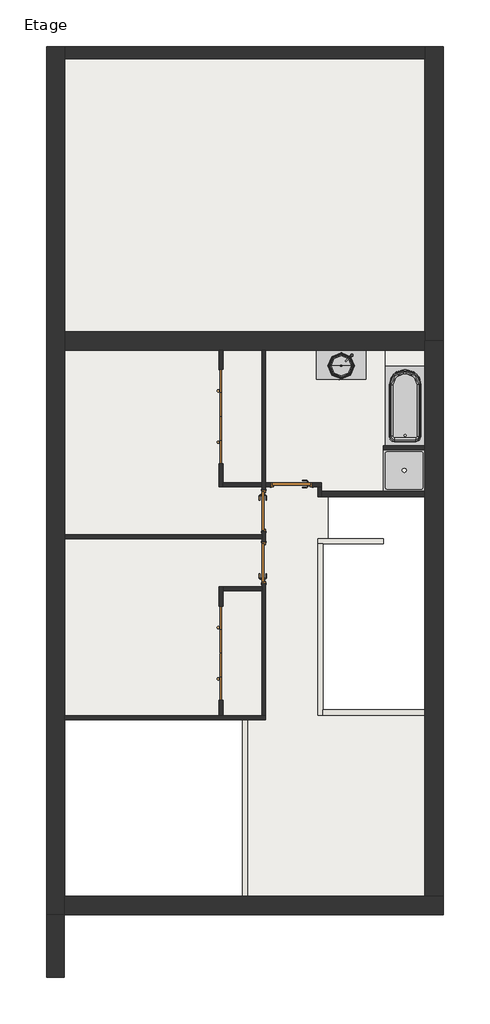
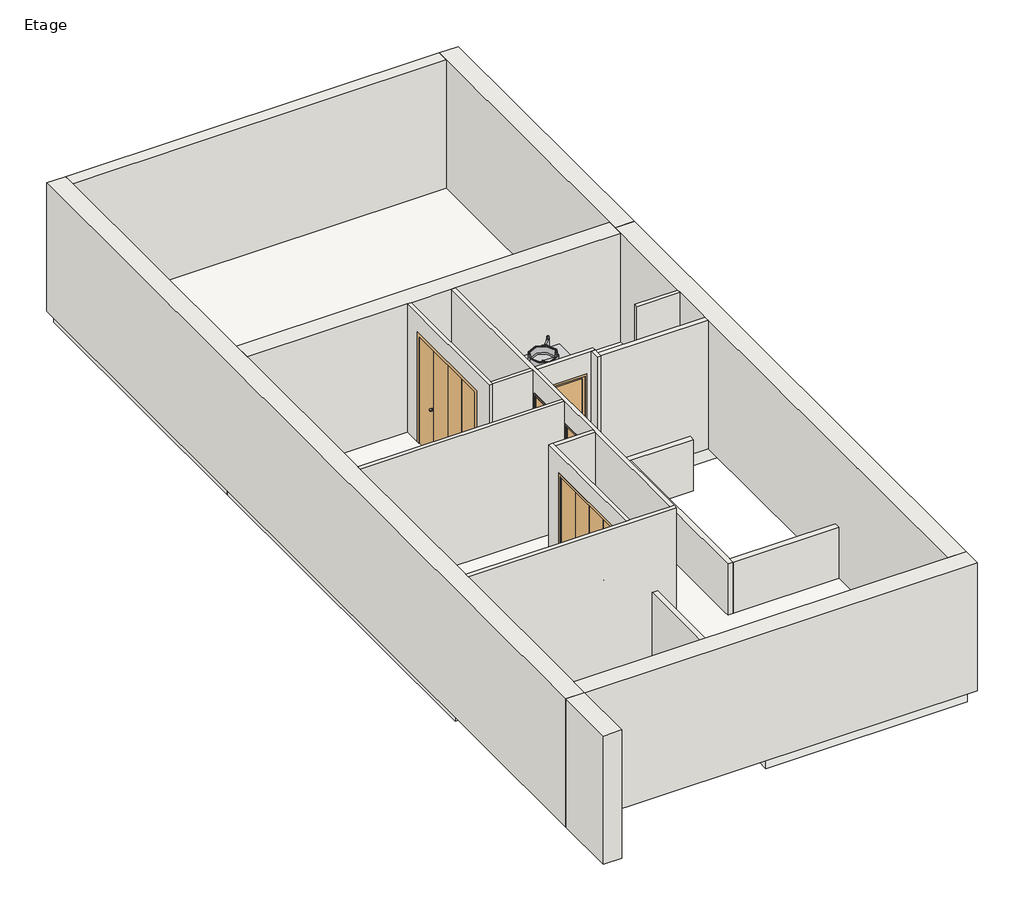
# One storey, incomplete: 22 walls, 5 doors, 3 flow terminals, 3 slabs, 1 furniture element.
"""IFC4 building model written with IfcOpenShell, lengths in millimetres."""

from ifc_helpers import new_model, si_unit, frame, origin, place, context, project, spatial, polyline, outline, extrude, faceted_brep, transform, mapped, element, save
from components import door_180cm_x_210cm_d4e2d69c, int_simple_pp_0_73m_x_2_04m_31faaed5, int_simple_pp_0_73m_x_2_04m_359deddd, flow_terminal_414a0167, flow_terminal_800_x_800mm_07a2eba6, baignoire_rectangulaire_mur_baignoire_rectangulaire_mur_f2afccf1, furniture_900mm_0b803dc7

model = new_model("IFC4")

# Units and contexts
model_context = context("Model", 3, world=origin())
ifc_project = project(units=[si_unit("LENGTHUNIT", "METRE", prefix="MILLI")], contexts=[model_context])

# Site, building, storey
site = spatial("IfcSite", under=ifc_project)
building = spatial("IfcBuilding", under=site)
storey = spatial("IfcBuildingStorey", under=building, Name="Etage", Elevation=3000.0)

# Doors
placement = place(None, origin())
door_180cm_x_210cm_shape = door_180cm_x_210cm_d4e2d69c(model_context)
element("IfcDoor", 1, ObjectType="Placard double pliante : 180cm x 210cm", at=placement, inside=storey, context=model_context, shape_type="MappedRepresentation", body=[
    mapped(door_180cm_x_210cm_shape, transform((-4616.3224934, 785.4574199, 3000.0), x_axis=(0.0, -1.0, 0.0), y_axis=(1.0, 0.0, 0.0), z_axis=(0.0, 0.0, 1.0))),
])
element("IfcDoor", 2, ObjectType="Placard double pliante : 180cm x 210cm", at=placement, inside=storey, context=model_context, shape_type="MappedRepresentation", body=[
    mapped(door_180cm_x_210cm_shape, transform((-4616.3224934, -3737.5425801, 3000.0), x_axis=(0.0, -1.0, 0.0), y_axis=(1.0, 0.0, 0.0), z_axis=(0.0, 0.0, 1.0))),
])
int_simple_pp_0_73m_x_2_04m_shape = int_simple_pp_0_73m_x_2_04m_31faaed5(model_context)
element("IfcDoor", 3, ObjectType="Int. Simple : PP (0.73m x 2.04m)", at=placement, inside=storey, context=model_context, shape_type="MappedRepresentation", body=[
    mapped(int_simple_pp_0_73m_x_2_04m_shape, transform((-3801.3224934, -1975.0425801, 3000.0), x_axis=(0.0, 1.0, 0.0), y_axis=(-1.0, 0.0, 0.0), z_axis=(0.0, 0.0, 1.0))),
])
int_simple_pp_0_73m_x_2_04m_2_shape = int_simple_pp_0_73m_x_2_04m_359deddd(model_context)
element("IfcDoor", 4, ObjectType="Int. Simple : PP (0.73m x 2.04m)", at=placement, inside=storey, context=model_context, shape_type="MappedRepresentation", body=[
    mapped(int_simple_pp_0_73m_x_2_04m_2_shape, transform((-3801.3224934, -1053.0425801, 3000.0), x_axis=(0.0, -1.0, 0.0), y_axis=(1.0, 0.0, 0.0), z_axis=(0.0, 0.0, 1.0))),
])
element("IfcDoor", 5, ObjectType="Int. Simple : PP (0.73m x 2.04m)", at=placement, inside=storey, context=model_context, shape_type="MappedRepresentation", body=[
    mapped(int_simple_pp_0_73m_x_2_04m_2_shape, transform((-3304.3224934, -520.0425801, 3000.0), x_axis=(-1.0, 0.0, 0.0), y_axis=(0.0, -1.0, 0.0), z_axis=(0.0, 0.0, 1.0))),
])

# Flow terminals
flow_terminal_shape = flow_terminal_414a0167(model_context)
element("IfcFlowTerminal", 6, ObjectType="Lavabo moderne : Lavabo moderne", at=placement, inside=storey, context=model_context, shape_type="MappedRepresentation", body=[
    mapped(flow_terminal_shape, transform((-2344.1723599, 2054.9574199, 3740.0), x_axis=(1.0, 0.0, 0.0), y_axis=(0.0, 1.0, 0.0), z_axis=(0.0, 0.0, 1.0))),
])
flow_terminal_800_x_800mm_shape = flow_terminal_800_x_800mm_07a2eba6(model_context)
element("IfcFlowTerminal", 7, ObjectType="Receveur d'angle - Vidange axée : 800 x 800mm", at=placement, inside=storey, context=model_context, shape_type="MappedRepresentation", body=[
    mapped(flow_terminal_800_x_800mm_shape, transform((-1116.697342, -245.1038978, 3000.0), x_axis=(1.0, 0.0, 0.0), y_axis=(0.0, 1.0, 0.0), z_axis=(0.0, 0.0, 1.0))),
])
baignoire_rectangulaire_mur_baignoire_rectangulaire_mur_shape = baignoire_rectangulaire_mur_baignoire_rectangulaire_mur_f2afccf1(model_context)
element("IfcFlowTerminal", 8, ObjectType="Baignoire rectangulaire - Mur : Baignoire rectangulaire - Mur", at=placement, inside=storey, context=model_context, shape_type="MappedRepresentation", body=[
    mapped(baignoire_rectangulaire_mur_baignoire_rectangulaire_mur_shape, transform((-541.697342, 1337.4990709, 3000.0), x_axis=(0.0, 1.0, 0.0), y_axis=(-1.0, 0.0, 0.0), z_axis=(0.0, 0.0, 1.0))),
])

# Furniture
furniture_900mm_shape = furniture_900mm_0b803dc7(model_context)
element("IfcFurniture", 9, ObjectType="Meuble sous lavabo - Porte simple et 2 tiroirs : 900mm", at=placement, inside=storey, context=model_context, shape_type="MappedRepresentation", body=[
    mapped(furniture_900mm_shape, transform((-2414.2601983, 2054.9574199, 3000.0), x_axis=(1.0, 0.0, 0.0), y_axis=(0.0, 1.0, 0.0), z_axis=(0.0, 0.0, 1.0))),
])

# Slabs
element("IfcSlab", 10, ObjectType="Dalle en béton", at=placement, inside=storey, context=model_context, shape_type="Brep", body=[
    faceted_brep([(-486.697342, -8615.0425801, 2750.0), (-4198.697342, -8615.0425801, 2750.0), (-4198.697342, -8385.0425801, 2750.0), (-4198.697342, -5005.0425801, 2750.0), (-4198.697342, -4992.0425801, 2750.0), (-7606.697342, -4992.0425801, 2750.0), (-7836.697342, -4992.0425801, 2750.0), (-7836.697342, 2284.9574199, 2750.0), (-7606.697342, 2284.9574199, 2750.0), (-716.697342, 2284.9574199, 2750.0), (-486.697342, 2284.9574199, 2750.0), (-486.697342, 2229.9574199, 2750.0), (-486.697342, 757.8961022, 2750.0), (-486.697342, -732.1038978, 2750.0), (-716.697342, -732.1038978, 2750.0), (-2577.5004576, -732.1038978, 2750.0), (-2577.5004576, -745.1038978, 2750.0), (-2577.5004576, -1545.1038978, 2750.0), (-2577.5004576, -1632.1038978, 2750.0), (-2619.1256089, -1632.1038978, 2750.0), (-2682.3224934, -1632.1038978, 2750.0), (-2682.3224934, -1645.1038978, 2750.0), (-2682.3224934, -4831.0425801, 2750.0), (-2669.3224934, -4831.0425801, 2750.0), (-716.697342, -4831.0425801, 2750.0), (-486.697342, -4831.0425801, 2750.0), (-486.697342, -8615.0425801, 3000.0), (-486.697342, -4831.0425801, 3000.0), (-716.697342, -4831.0425801, 3000.0), (-2669.3224934, -4831.0425801, 3000.0), (-2682.3224934, -4831.0425801, 3000.0), (-2682.3224934, -1645.1038978, 3000.0), (-2682.3224934, -1632.1038978, 3000.0), (-2619.1256089, -1632.1038978, 3000.0), (-2577.5004576, -1632.1038978, 3000.0), (-2577.5004576, -1545.1038978, 3000.0), (-2577.5004576, -745.1038978, 3000.0), (-2577.5004576, -732.1038978, 3000.0), (-716.697342, -732.1038978, 3000.0), (-486.697342, -732.1038978, 3000.0), (-486.697342, 757.8961022, 3000.0), (-486.697342, 2229.9574199, 3000.0), (-486.697342, 2284.9574199, 3000.0), (-716.697342, 2284.9574199, 3000.0), (-7606.697342, 2284.9574199, 3000.0), (-7836.697342, 2284.9574199, 3000.0), (-7836.697342, -4992.0425801, 3000.0), (-7606.697342, -4992.0425801, 3000.0), (-4198.697342, -4992.0425801, 3000.0), (-4198.697342, -5005.0425801, 3000.0), (-4198.697342, -8385.0425801, 3000.0), (-4198.697342, -8615.0425801, 3000.0)], [[[0, 1, 2, 3, 4, 5, 6, 7, 8, 9, 10, 11, 12, 13, 14, 15, 16, 17, 18, 19, 20, 21, 22, 23, 24, 25]], [[26, 27, 28, 29, 30, 31, 32, 33, 34, 35, 36, 37, 38, 39, 40, 41, 42, 43, 44, 45, 46, 47, 48, 49, 50, 51]], [[1, 0, 26, 51]], [[7, 6, 46, 45]], [[10, 9, 8, 7, 45, 44, 43, 42]], [[0, 25, 27, 26]], [[4, 3, 2, 1, 51, 50, 49, 48]], [[6, 5, 4, 48, 47, 46]], [[13, 12, 11, 10, 42, 41, 40, 39]], [[15, 14, 13, 39, 38, 37]], [[18, 17, 16, 15, 37, 36, 35, 34]], [[20, 19, 18, 34, 33, 32]], [[22, 21, 20, 32, 31, 30]], [[25, 24, 23, 22, 30, 29, 28, 27]]]),
])
element("IfcSlab", 11, ObjectType="Dalle en béton", at=placement, inside=storey, context=model_context, shape_type="Brep", body=[
    faceted_brep([(-486.697342, 7834.9574199, 2750.0), (-486.697342, 2284.9574199, 2750.0), (-7836.697342, 2284.9574199, 2750.0), (-7836.697342, 7624.9574199, 2750.0), (-7836.697342, 7834.9574199, 2750.0), (-5616.5193778, 7834.9574199, 2750.0), (-486.697342, 7834.9574199, 3000.0), (-5616.5193778, 7834.9574199, 3000.0), (-7836.697342, 7834.9574199, 3000.0), (-7836.697342, 7624.9574199, 3000.0), (-7836.697342, 2284.9574199, 3000.0), (-486.697342, 2284.9574199, 3000.0)], [[[0, 1, 2, 3, 4, 5]], [[6, 7, 8, 9, 10, 11]], [[1, 0, 6, 11]], [[2, 1, 11, 10]], [[4, 3, 2, 10, 9, 8]], [[0, 5, 4, 8, 7, 6]]]),
])
element("IfcSlab", 12, ObjectType="Carrelage", at=placement, inside=storey, context=model_context, shape_type="Brep", body=[
    faceted_brep([(-716.697342, 2054.9574199, 3330.0), (-716.697342, 1751.8961022, 3330.0), (-1406.697342, 1751.8961022, 3330.0), (-1478.697342, 1751.8961022, 3330.0), (-1478.697342, 2054.9574199, 3330.0), (-1406.697342, 2054.9574199, 3330.0), (-716.697342, 2054.9574199, 3380.0), (-1478.697342, 2054.9574199, 3380.0), (-1478.697342, 1751.8961022, 3380.0), (-716.697342, 1751.8961022, 3380.0)], [[[0, 1, 2, 3, 4, 5]], [[6, 7, 8, 9]], [[1, 0, 6, 9]], [[3, 2, 1, 9, 8]], [[4, 3, 8, 7]], [[0, 5, 4, 7, 6]]]),
])

# Walls
element("IfcWall", 13, ObjectType="Ext. Bardage Métal + Isolant + Béton + Finition", at=placement, inside=storey, context=model_context, shape_type="Brep", body=[
    faceted_brep([(-7956.697342, 7854.9574199, 3000.0), (-7956.697342, 7624.9574199, 3000.0), (-7956.697342, -8735.0425801, 3000.0), (-7956.697342, -8735.0425801, 5500.0), (-7956.697342, 7854.9574199, 5500.0), (-7606.697342, 7854.9574199, 3000.0), (-7606.697342, 7854.9574199, 5500.0), (-7606.697342, 7624.9574199, 5500.0), (-7606.697342, 2404.9574199, 5500.0), (-7606.697342, 2054.9574199, 5500.0), (-7606.697342, -1478.0425801, 5500.0), (-7606.697342, -1550.0425801, 5500.0), (-7606.697342, -4933.0425801, 5500.0), (-7606.697342, -5005.0425801, 5500.0), (-7606.697342, -8385.0425801, 5500.0), (-7606.697342, -8735.0425801, 5500.0), (-7606.697342, -8735.0425801, 3000.0), (-7606.697342, -8385.0425801, 3000.0), (-7606.697342, -4992.0425801, 3000.0), (-7606.697342, -4933.0425801, 3000.0), (-7606.697342, -1550.0425801, 3000.0), (-7606.697342, -1478.0425801, 3000.0), (-7606.697342, 2054.9574199, 3000.0), (-7606.697342, 2284.9574199, 3000.0), (-7606.697342, 2404.9574199, 3000.0), (-7606.697342, 7624.9574199, 3000.0), (-7616.697342, -8735.0425801, 3000.0), (-7616.697342, -8735.0425801, 5500.0)], [[[0, 1, 2, 3, 4]], [[5, 6, 7, 8, 9, 10, 11, 12, 13, 14, 15, 16, 17, 18, 19, 20, 21, 22, 23, 24, 25]], [[2, 1, 0, 5, 25, 24, 23, 22, 21, 20, 19, 18, 17, 16, 26]], [[4, 3, 27, 15, 14, 13, 12, 11, 10, 9, 8, 7, 6]], [[0, 4, 6, 5]], [[3, 2, 26, 16, 15, 27]]]),
])
element("IfcWall", 14, ObjectType="Ext. Bardage Bois + Isolant + Béton + Finition", at=placement, inside=storey, context=model_context, shape_type="Brep", body=[
    faceted_brep([(-7606.697342, -8735.0425801, 3000.0), (-366.697342, -8735.0425801, 3000.0), (-366.697342, -8735.0425801, 5500.0), (-7606.697342, -8735.0425801, 5500.0), (-7606.697342, -8385.0425801, 3000.0), (-7606.697342, -8385.0425801, 5500.0), (-716.697342, -8385.0425801, 5500.0), (-366.697342, -8385.0425801, 5500.0), (-366.697342, -8385.0425801, 3000.0), (-716.697342, -8385.0425801, 3000.0), (-4111.697342, -8385.0425801, 3000.0), (-4198.697342, -8385.0425801, 3000.0)], [[[0, 1, 2, 3]], [[4, 5, 6, 7, 8, 9, 10, 11]], [[1, 0, 4, 11, 10, 9, 8]], [[3, 2, 7, 6, 5]], [[2, 1, 8, 7]], [[0, 3, 5, 4]]]),
])
element("IfcWall", 15, ObjectType="Ext. Bardage Bois + Isolant + Béton + Finition", at=placement, inside=storey, context=model_context, shape_type="Brep", body=[
    faceted_brep([(-366.697342, -8385.0425801, 3000.0), (-366.697342, -3635.0425801, 3000.0), (-366.697342, 2229.9574199, 3000.0), (-366.697342, 2229.9574199, 5500.0), (-366.697342, -8385.0425801, 5500.0), (-716.697342, -8385.0425801, 3000.0), (-716.697342, -8385.0425801, 5500.0), (-716.697342, -745.1038978, 5500.0), (-716.697342, -645.1038978, 5500.0), (-716.697342, 154.8961022, 5500.0), (-716.697342, 226.8961022, 5500.0), (-716.697342, 2054.9574199, 5500.0), (-716.697342, 2229.9574199, 5500.0), (-716.697342, 2229.9574199, 3000.0), (-716.697342, 2054.9574199, 3000.0), (-716.697342, 226.8961022, 3000.0), (-716.697342, 154.8961022, 3000.0), (-716.697342, -645.1038978, 3000.0), (-716.697342, -732.1038978, 3000.0), (-716.697342, -745.1038978, 3000.0), (-716.697342, -3635.0425801, 3000.0), (-716.697342, -4831.0425801, 3000.0), (-716.697342, -4918.0425801, 3000.0), (-486.697342, 2229.9574199, 3000.0)], [[[0, 1, 2, 3, 4]], [[5, 6, 7, 8, 9, 10, 11, 12, 13, 14, 15, 16, 17, 18, 19, 20, 21, 22]], [[2, 1, 0, 5, 22, 21, 20, 19, 18, 17, 16, 15, 14, 13, 23]], [[3, 2, 23, 13, 12]], [[4, 3, 12, 11, 10, 9, 8, 7, 6]], [[0, 4, 6, 5]]]),
])
element("IfcWall", 16, ObjectType="Ext. Bardage Bois + Isolant + Béton + Finition", at=placement, inside=storey, context=model_context, shape_type="Brep", body=[
    faceted_brep([(-716.697342, 2404.9574199, 3000.0), (-7606.697342, 2404.9574199, 3000.0), (-7606.697342, 2404.9574199, 5500.0), (-716.697342, 2404.9574199, 5500.0), (-716.697342, 2054.9574199, 3000.0), (-716.697342, 2054.9574199, 5500.0), (-3765.3224934, 2054.9574199, 5500.0), (-3837.3224934, 2054.9574199, 5500.0), (-4580.3224934, 2054.9574199, 5500.0), (-4652.3224934, 2054.9574199, 5500.0), (-7606.697342, 2054.9574199, 5500.0), (-7606.697342, 2054.9574199, 3000.0), (-4652.3224934, 2054.9574199, 3000.0), (-4580.3224934, 2054.9574199, 3000.0), (-3837.3224934, 2054.9574199, 3000.0), (-3765.3224934, 2054.9574199, 3000.0), (-1478.697342, 2054.9574199, 3000.0), (-1406.697342, 2054.9574199, 3000.0), (-716.697342, 2284.9574199, 3000.0), (-716.697342, 2229.9574199, 3000.0), (-716.697342, 2229.9574199, 5500.0)], [[[0, 1, 2, 3]], [[4, 5, 6, 7, 8, 9, 10, 11, 12, 13, 14, 15, 16, 17]], [[1, 0, 18, 19, 4, 17, 16, 15, 14, 13, 12, 11]], [[3, 2, 10, 9, 8, 7, 6, 5, 20]], [[2, 1, 11, 10]], [[0, 3, 20, 5, 4, 19, 18]]]),
])
element("IfcWall", 17, ObjectType="Int. Plâtre 70 mm", at=placement, inside=storey, context=model_context, shape_type="Brep", body=[
    faceted_brep([(-3765.3224934, -5005.0425801, 5500.0), (-7606.697342, -5005.0425801, 5500.0), (-7606.697342, -5005.0425801, 2750.0), (-4211.697342, -5005.0425801, 2750.0), (-4198.697342, -5005.0425801, 2750.0), (-4198.697342, -5005.0425801, 3000.0), (-4111.697342, -5005.0425801, 3000.0), (-3765.3224934, -5005.0425801, 3000.0), (-7606.697342, -4933.0425801, 5500.0), (-4652.3224934, -4933.0425801, 5500.0), (-4580.3224934, -4933.0425801, 5500.0), (-3837.3224934, -4933.0425801, 5500.0), (-3765.3224934, -4933.0425801, 5500.0), (-3765.3224934, -4933.0425801, 3000.0), (-3837.3224934, -4933.0425801, 3000.0), (-4580.3224934, -4933.0425801, 3000.0), (-4652.3224934, -4933.0425801, 3000.0), (-7606.697342, -4933.0425801, 3000.0), (-7606.697342, -4992.0425801, 2750.0), (-4198.697342, -4992.0425801, 2750.0), (-7606.697342, -4992.0425801, 3000.0), (-4198.697342, -4992.0425801, 3000.0)], [[[0, 1, 2, 3, 4, 5, 6, 7]], [[8, 9, 10, 11, 12, 13, 14, 15, 16, 17]], [[4, 3, 2, 18, 19]], [[1, 0, 12, 11, 10, 9, 8]], [[12, 0, 7, 13]], [[1, 8, 17, 20, 18, 2]], [[5, 21, 20, 17, 16, 15, 14, 13, 7, 6]], [[19, 21, 5, 4]], [[21, 19, 18, 20]]]),
])
element("IfcWall", 18, ObjectType="Int. Plâtre 70 mm", at=placement, inside=storey, context=model_context, shape_type="Brep", body=[
    faceted_brep([(-3765.3224934, 2054.9574199, 5500.0), (-3765.3224934, -484.0425801, 5500.0), (-3765.3224934, -556.0425801, 5500.0), (-3765.3224934, -4933.0425801, 5500.0), (-3765.3224934, -4933.0425801, 3000.0), (-3765.3224934, -2410.0425801, 3000.0), (-3765.3224934, -2410.0425801, 5075.0), (-3765.3224934, -1610.0425801, 5075.0), (-3765.3224934, -1610.0425801, 3000.0), (-3765.3224934, -1418.0425801, 3000.0), (-3765.3224934, -1418.0425801, 5075.0), (-3765.3224934, -618.0425801, 5075.0), (-3765.3224934, -618.0425801, 3000.0), (-3765.3224934, -556.0425801, 3000.0), (-3765.3224934, -484.0425801, 3000.0), (-3765.3224934, 2054.9574199, 3000.0), (-3837.3224934, -4933.0425801, 5500.0), (-3837.3224934, -2542.0425801, 5500.0), (-3837.3224934, -2470.0425801, 5500.0), (-3837.3224934, -1550.0425801, 5500.0), (-3837.3224934, -1478.0425801, 5500.0), (-3837.3224934, -556.0425801, 5500.0), (-3837.3224934, -484.0425801, 5500.0), (-3837.3224934, 2054.9574199, 5500.0), (-3837.3224934, 2054.9574199, 3000.0), (-3837.3224934, -484.0425801, 3000.0), (-3837.3224934, -556.0425801, 3000.0), (-3837.3224934, -618.0425801, 3000.0), (-3837.3224934, -618.0425801, 5075.0), (-3837.3224934, -1418.0425801, 5075.0), (-3837.3224934, -1418.0425801, 3000.0), (-3837.3224934, -1478.0425801, 3000.0), (-3837.3224934, -1550.0425801, 3000.0), (-3837.3224934, -1610.0425801, 3000.0), (-3837.3224934, -1610.0425801, 5075.0), (-3837.3224934, -2410.0425801, 5075.0), (-3837.3224934, -2410.0425801, 3000.0), (-3837.3224934, -2470.0425801, 3000.0), (-3837.3224934, -2542.0425801, 3000.0), (-3837.3224934, -4933.0425801, 3000.0)], [[[0, 1, 2, 3, 4, 5, 6, 7, 8, 9, 10, 11, 12, 13, 14, 15]], [[16, 17, 18, 19, 20, 21, 22, 23, 24, 25, 26, 27, 28, 29, 30, 31, 32, 33, 34, 35, 36, 37, 38, 39]], [[4, 39, 38, 37, 36, 5]], [[24, 15, 14, 13, 12, 27, 26, 25]], [[8, 33, 32, 31, 30, 9]], [[3, 2, 1, 0, 23, 22, 21, 20, 19, 18, 17, 16]], [[4, 3, 16, 39]], [[0, 15, 24, 23]], [[7, 34, 33, 8]], [[34, 7, 6, 35]], [[35, 6, 5, 36]], [[29, 10, 9, 30]], [[10, 29, 28, 11]], [[11, 28, 27, 12]]]),
])
element("IfcWall", 19, ObjectType="Int. Plâtre 70 mm", at=placement, inside=storey, context=model_context, shape_type="Brep", body=[
    faceted_brep([(-4652.3224934, -556.0425801, 5500.0), (-4652.3224934, 2054.9574199, 5500.0), (-4652.3224934, 2054.9574199, 3000.0), (-4652.3224934, 1685.4574199, 3000.0), (-4652.3224934, 1685.4574199, 5100.0), (-4652.3224934, -114.5425801, 5100.0), (-4652.3224934, -114.5425801, 3000.0), (-4652.3224934, -556.0425801, 3000.0), (-4580.3224934, 2054.9574199, 5500.0), (-4580.3224934, -484.0425801, 5500.0), (-4580.3224934, -556.0425801, 5500.0), (-4580.3224934, -556.0425801, 3000.0), (-4580.3224934, -484.0425801, 3000.0), (-4580.3224934, -114.5425801, 3000.0), (-4580.3224934, -114.5425801, 5100.0), (-4580.3224934, 1685.4574199, 5100.0), (-4580.3224934, 1685.4574199, 3000.0), (-4580.3224934, 2054.9574199, 3000.0)], [[[0, 1, 2, 3, 4, 5, 6, 7]], [[8, 9, 10, 11, 12, 13, 14, 15, 16, 17]], [[2, 17, 16, 3]], [[11, 7, 6, 13, 12]], [[1, 0, 10, 9, 8]], [[2, 1, 8, 17]], [[0, 7, 11, 10]], [[5, 14, 13, 6]], [[14, 5, 4, 15]], [[15, 4, 3, 16]]]),
])
element("IfcWall", 20, ObjectType="Int. Plâtre 70 mm", at=placement, inside=storey, context=model_context, shape_type="Brep", body=[
    faceted_brep([(-4580.3224934, -556.0425801, 5500.0), (-4580.3224934, -556.0425801, 3000.0), (-3837.3224934, -556.0425801, 3000.0), (-3837.3224934, -556.0425801, 5500.0), (-4580.3224934, -484.0425801, 3000.0), (-4580.3224934, -484.0425801, 5500.0), (-3837.3224934, -484.0425801, 5500.0), (-3837.3224934, -484.0425801, 3000.0)], [[[0, 1, 2, 3]], [[4, 5, 6, 7]], [[1, 4, 7, 2]], [[5, 0, 3, 6]], [[1, 0, 5, 4]], [[3, 2, 7, 6]]]),
    faceted_brep([(-2697.3224934, -556.0425801, 3000.0), (-2697.3224934, -556.0425801, 5500.0), (-2769.3224934, -556.0425801, 5500.0), (-3765.3224934, -556.0425801, 5500.0), (-3765.3224934, -556.0425801, 3000.0), (-3669.3224934, -556.0425801, 3000.0), (-3669.3224934, -556.0425801, 5075.0), (-2869.3224934, -556.0425801, 5075.0), (-2869.3224934, -556.0425801, 3000.0), (-2769.3224934, -556.0425801, 3000.0), (-2697.3224934, -484.0425801, 5500.0), (-2697.3224934, -484.0425801, 3000.0), (-2869.3224934, -484.0425801, 3000.0), (-2869.3224934, -484.0425801, 5075.0), (-3669.3224934, -484.0425801, 5075.0), (-3669.3224934, -484.0425801, 3000.0), (-3765.3224934, -484.0425801, 3000.0), (-3765.3224934, -484.0425801, 5500.0)], [[[0, 1, 2, 3, 4, 5, 6, 7, 8, 9]], [[10, 11, 12, 13, 14, 15, 16, 17]], [[11, 0, 9, 8, 12]], [[15, 5, 4, 16]], [[1, 10, 17, 3, 2]], [[4, 3, 17, 16]], [[1, 0, 11, 10]], [[14, 6, 5, 15]], [[6, 14, 13, 7]], [[7, 13, 12, 8]]]),
])
element("IfcWall", 21, ObjectType="Int. Plâtre 70 mm", at=placement, inside=storey, context=model_context, shape_type="Brep", body=[
    faceted_brep([(-2769.3224934, -556.0425801, 3000.0), (-2769.3224934, -745.1038978, 3000.0), (-2769.3224934, -745.1038978, 5500.0), (-2769.3224934, -556.0425801, 5500.0), (-2697.3224934, -556.0425801, 3000.0), (-2697.3224934, -556.0425801, 5500.0), (-2697.3224934, -645.1038978, 5500.0), (-2697.3224934, -745.1038978, 5500.0), (-2697.3224934, -745.1038978, 3000.0), (-2697.3224934, -645.1038978, 3000.0)], [[[0, 1, 2, 3]], [[4, 5, 6, 7, 8, 9]], [[1, 0, 4, 9, 8]], [[3, 2, 7, 6, 5]], [[0, 3, 5, 4]], [[2, 1, 8, 7]]]),
])
element("IfcWall", 22, ObjectType="Int. Plâtre 70 mm", at=placement, inside=storey, context=model_context, shape_type="SweptSolid", body=[
    extrude(outline(polyline([(-1516.697342, 226.8961022), (-716.697342, 226.8961022), (-716.697342, 154.8961022), (-1516.697342, 154.8961022), (-1516.697342, 226.8961022)])), frame((0.0, 0.0, 3000.0), z_axis=(0.0, 0.0, 1.0), x_axis=(1.0, 0.0, 0.0)), (0.0, 0.0, 1.0), 2500.0),
])
element("IfcWall", 23, ObjectType="Int. Plâtre 70 mm", at=placement, inside=storey, context=model_context, shape_type="Brep", body=[
    faceted_brep([(-4580.3224934, -2470.0425801, 5500.0), (-4580.3224934, -2542.0425801, 5500.0), (-4580.3224934, -4933.0425801, 5500.0), (-4580.3224934, -4933.0425801, 3000.0), (-4580.3224934, -4637.5425801, 3000.0), (-4580.3224934, -4637.5425801, 5100.0), (-4580.3224934, -2837.5425801, 5100.0), (-4580.3224934, -2837.5425801, 3000.0), (-4580.3224934, -2542.0425801, 3000.0), (-4580.3224934, -2470.0425801, 3000.0), (-4652.3224934, -4933.0425801, 5500.0), (-4652.3224934, -2470.0425801, 5500.0), (-4652.3224934, -2470.0425801, 3000.0), (-4652.3224934, -2837.5425801, 3000.0), (-4652.3224934, -2837.5425801, 5100.0), (-4652.3224934, -4637.5425801, 5100.0), (-4652.3224934, -4637.5425801, 3000.0), (-4652.3224934, -4933.0425801, 3000.0)], [[[0, 1, 2, 3, 4, 5, 6, 7, 8, 9]], [[10, 11, 12, 13, 14, 15, 16, 17]], [[3, 17, 16, 4]], [[12, 9, 8, 7, 13]], [[2, 1, 0, 11, 10]], [[3, 2, 10, 17]], [[0, 9, 12, 11]], [[15, 5, 4, 16]], [[5, 15, 14, 6]], [[6, 14, 13, 7]]]),
])
element("IfcWall", 24, ObjectType="Int. Plâtre 70 mm", at=placement, inside=storey, context=model_context, shape_type="SweptSolid", body=[
    extrude(outline(polyline([(-3837.3224934, -2542.0425801), (-4580.3224934, -2542.0425801), (-4580.3224934, -2470.0425801), (-3837.3224934, -2470.0425801), (-3837.3224934, -2542.0425801)])), frame((0.0, 0.0, 3000.0), z_axis=(0.0, 0.0, 1.0), x_axis=(1.0, 0.0, 0.0)), (0.0, 0.0, 1.0), 2500.0),
])
element("IfcWall", 25, ObjectType="Int. Plâtre 70 mm", at=placement, inside=storey, context=model_context, shape_type="SweptSolid", body=[
    extrude(outline(polyline([(-7606.697342, -1478.0425801), (-3837.3224934, -1478.0425801), (-3837.3224934, -1550.0425801), (-7606.697342, -1550.0425801), (-7606.697342, -1478.0425801)])), frame((0.0, 0.0, 3000.0), z_axis=(0.0, 0.0, 1.0), x_axis=(1.0, 0.0, 0.0)), (0.0, 0.0, 1.0), 2500.0),
])
element("IfcWall", 26, ObjectType="Int. Plâtre 100 mm", at=placement, inside=storey, context=model_context, shape_type="Brep", body=[
    faceted_brep([(-716.697342, -645.1038978, 3000.0), (-2697.3224934, -645.1038978, 3000.0), (-2697.3224934, -645.1038978, 5500.0), (-716.697342, -645.1038978, 5500.0), (-716.697342, -745.1038978, 3000.0), (-716.697342, -745.1038978, 5500.0), (-2697.3224934, -745.1038978, 5500.0), (-2697.3224934, -745.1038978, 3000.0), (-2577.5004576, -745.1038978, 3000.0), (-716.697342, -732.1038978, 3000.0)], [[[0, 1, 2, 3]], [[4, 5, 6, 7, 8]], [[1, 0, 9, 4, 8, 7]], [[3, 2, 6, 5]], [[0, 3, 5, 4, 9]], [[2, 1, 7, 6]]]),
])
element("IfcWall", 27, ObjectType="Int. Plâtre 100 mm", at=placement, inside=storey, context=model_context, shape_type="Brep", body=[
    faceted_brep([(-2769.3224934, -1645.1038978, 3000.0), (-2682.3224934, -1645.1038978, 3000.0), (-2619.1256089, -1645.1038978, 3000.0), (-1515.8753062, -1645.1038978, 3000.0), (-1515.8753062, -1645.1038978, 4000.0), (-2669.3224934, -1645.1038978, 4000.0), (-2769.3224934, -1645.1038978, 4000.0), (-2769.3224934, -1545.1038978, 3000.0), (-2769.3224934, -1545.1038978, 4000.0), (-1515.8753062, -1545.1038978, 4000.0), (-1515.8753062, -1545.1038978, 3000.0), (-2577.5004576, -1545.1038978, 3000.0)], [[[0, 1, 2, 3, 4, 5, 6]], [[7, 8, 9, 10, 11]], [[3, 2, 1, 0, 7, 11, 10]], [[4, 3, 10, 9]], [[6, 5, 4, 9, 8]], [[0, 6, 8, 7]]]),
])
element("IfcWall", 28, ObjectType="Int. Plâtre 100 mm", at=placement, inside=storey, context=model_context, shape_type="Brep", body=[
    faceted_brep([(-2669.3224934, -1645.1038978, 4000.0), (-2669.3224934, -4818.0425801, 4000.0), (-2669.3224934, -4918.0425801, 4000.0), (-2669.3224934, -4918.0425801, 3000.0), (-2669.3224934, -4831.0425801, 3000.0), (-2669.3224934, -4831.0425801, 2750.0), (-2669.3224934, -4818.0425801, 2750.0), (-2669.3224934, -1645.1038978, 2750.0), (-2769.3224934, -4918.0425801, 4000.0), (-2769.3224934, -1645.1038978, 4000.0), (-2769.3224934, -1645.1038978, 3000.0), (-2769.3224934, -4918.0425801, 3000.0), (-2682.3224934, -4831.0425801, 2750.0), (-2682.3224934, -1645.1038978, 2750.0), (-2682.3224934, -1645.1038978, 3000.0), (-2682.3224934, -4831.0425801, 3000.0)], [[[0, 1, 2, 3, 4, 5, 6, 7]], [[8, 9, 10, 11]], [[7, 6, 5, 12, 13]], [[2, 1, 0, 9, 8]], [[2, 8, 11, 3]], [[9, 0, 7, 13, 14, 10]], [[14, 15, 4, 3, 11, 10]], [[12, 15, 14, 13]], [[15, 12, 5, 4]]]),
])
element("IfcWall", 29, ObjectType="Int. Plâtre 100 mm", at=placement, inside=storey, context=model_context, shape_type="SweptSolid", body=[
    extrude(outline(polyline([(-4818.0425801, 4000.0), (-4818.0425801, 2750.0), (-4831.0425801, 2750.0), (-4831.0425801, 3000.0), (-4918.0425801, 3000.0), (-4918.0425801, 4000.0), (-4818.0425801, 4000.0)])), frame((-2669.3224934, 0.0, 0.0), z_axis=(1.0, 0.0, 0.0), x_axis=(0.0, 1.0, 0.0)), (0.0, 0.0, 1.0), 1952.6251514),
])
element("IfcWall", 30, ObjectType="Int. Plâtre 100 mm", at=placement, inside=storey, context=model_context, shape_type="SweptSolid", body=[
    extrude(outline(polyline([(4000.0, -4111.697342), (4000.0, -4211.697342), (2750.0, -4211.697342), (2750.0, -4198.697342), (3000.0, -4198.697342), (3000.0, -4111.697342), (4000.0, -4111.697342)])), frame((0.0, -8385.0425801, 0.0), z_axis=(0.0, 1.0, 0.0), x_axis=(0.0, 0.0, 1.0)), (0.0, 0.0, 1.0), 3380.0),
])
element("IfcWall", 31, ObjectType="Ext. Bardage Bois + Béton + Finition", at=placement, inside=storey, context=model_context, shape_type="Brep", body=[
    faceted_brep([(-7606.697342, 7624.9574199, 3000.0), (-716.697342, 7624.9574199, 3000.0), (-716.697342, 7624.9574199, 5500.0), (-7606.697342, 7624.9574199, 5500.0), (-7606.697342, 7854.9574199, 3000.0), (-7606.697342, 7854.9574199, 5500.0), (-716.697342, 7854.9574199, 5500.0), (-716.697342, 7854.9574199, 3000.0), (-5616.5193778, 7854.9574199, 3000.0)], [[[0, 1, 2, 3]], [[4, 5, 6, 7, 8]], [[1, 0, 4, 8, 7]], [[3, 2, 6, 5]], [[0, 3, 5, 4]], [[2, 1, 7, 6]]]),
])
element("IfcWall", 32, ObjectType="Ext. Bardage Bois + Isolant + Béton + Finition", at=placement, inside=storey, context=model_context, shape_type="Brep", body=[
    faceted_brep([(-366.697342, 2229.9574199, 2750.0), (-366.697342, 2404.9574199, 2750.0), (-366.697342, 7614.9574199, 2750.0), (-366.697342, 7854.9574199, 2750.0), (-366.697342, 7854.9574199, 5500.0), (-366.697342, 2229.9574199, 5500.0), (-366.697342, 2229.9574199, 3000.0), (-716.697342, 2229.9574199, 5500.0), (-716.697342, 2404.9574199, 5500.0), (-716.697342, 7624.9574199, 5500.0), (-716.697342, 7854.9574199, 5500.0), (-716.697342, 7854.9574199, 3000.0), (-716.697342, 7854.9574199, 2750.0), (-716.697342, 7614.9574199, 2750.0), (-716.697342, 2404.9574199, 2750.0), (-716.697342, 2284.9574199, 2750.0), (-716.697342, 2284.9574199, 3000.0), (-716.697342, 2229.9574199, 3000.0), (-486.697342, 2229.9574199, 2750.0), (-486.697342, 2284.9574199, 2750.0), (-486.697342, 2229.9574199, 3000.0), (-486.697342, 2284.9574199, 3000.0)], [[[0, 1, 2, 3, 4, 5, 6]], [[7, 8, 9, 10, 11, 12, 13, 14, 15, 16, 17]], [[3, 2, 1, 0, 18, 19, 15, 14, 13, 12]], [[5, 4, 10, 9, 8, 7]], [[0, 6, 5, 7, 17, 20, 18]], [[4, 3, 12, 11, 10]], [[16, 21, 20, 17]], [[19, 21, 16, 15]], [[21, 19, 18, 20]]]),
])
element("IfcWall", 33, ObjectType="Ext. Bardage Métal + Isolant + Béton + Bardage Bois", at=placement, inside=storey, context=model_context, shape_type="SweptSolid", body=[
    extrude(outline(polyline([(-7956.697342, -9932.1038978), (-7956.697342, -8735.0425801), (-7616.697342, -8735.0425801), (-7616.697342, -9932.1038978), (-7956.697342, -9932.1038978)])), frame((0.0, 0.0, 3000.0), z_axis=(0.0, 0.0, 1.0), x_axis=(1.0, 0.0, 0.0)), (0.0, 0.0, 1.0), 2500.0),
])
element("IfcWall", 34, ObjectType="Int. Plâtre 70 mm", at=placement, inside=storey, context=model_context, shape_type="SweptSolid", body=[
    extrude(outline(polyline([(-1478.697342, 1751.8961022), (-1478.697342, 2054.9574199), (-1406.697342, 2054.9574199), (-1406.697342, 1751.8961022), (-1478.697342, 1751.8961022)])), frame((0.0, 0.0, 3000.0), z_axis=(0.0, 0.0, 1.0), x_axis=(1.0, 0.0, 0.0)), (0.0, 0.0, 1.0), 330.0),
])

save(model, "model.ifc")
